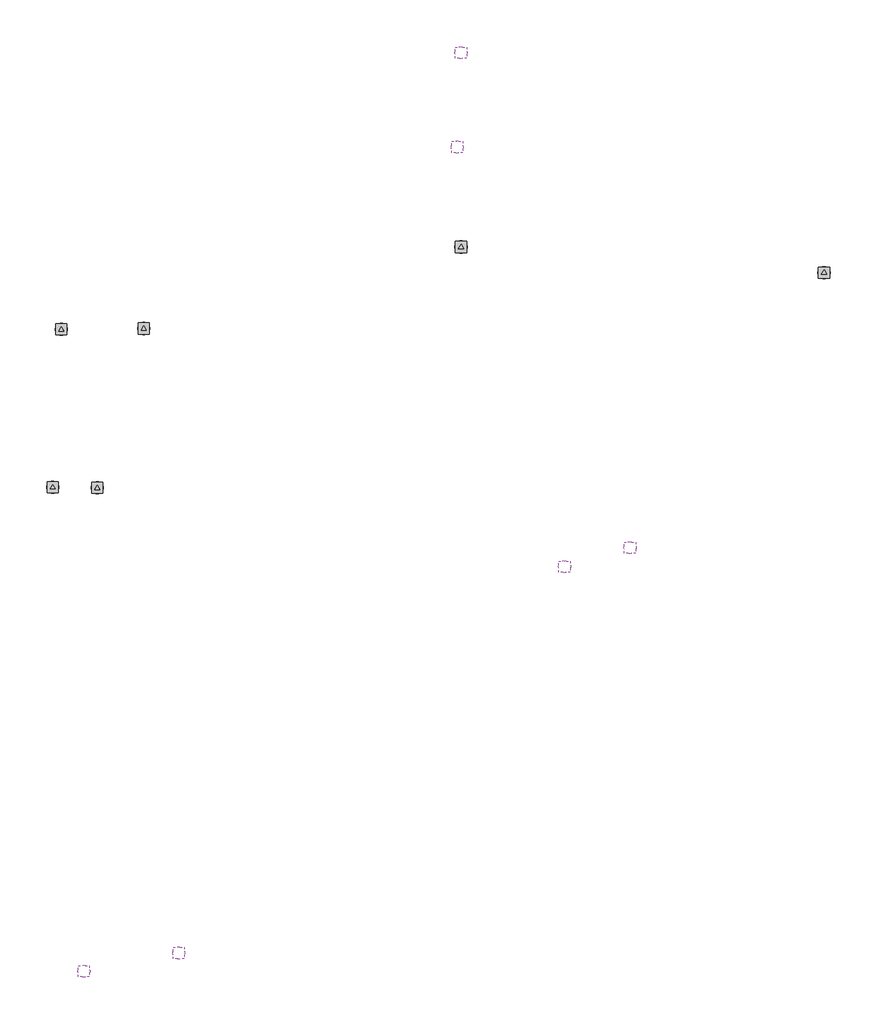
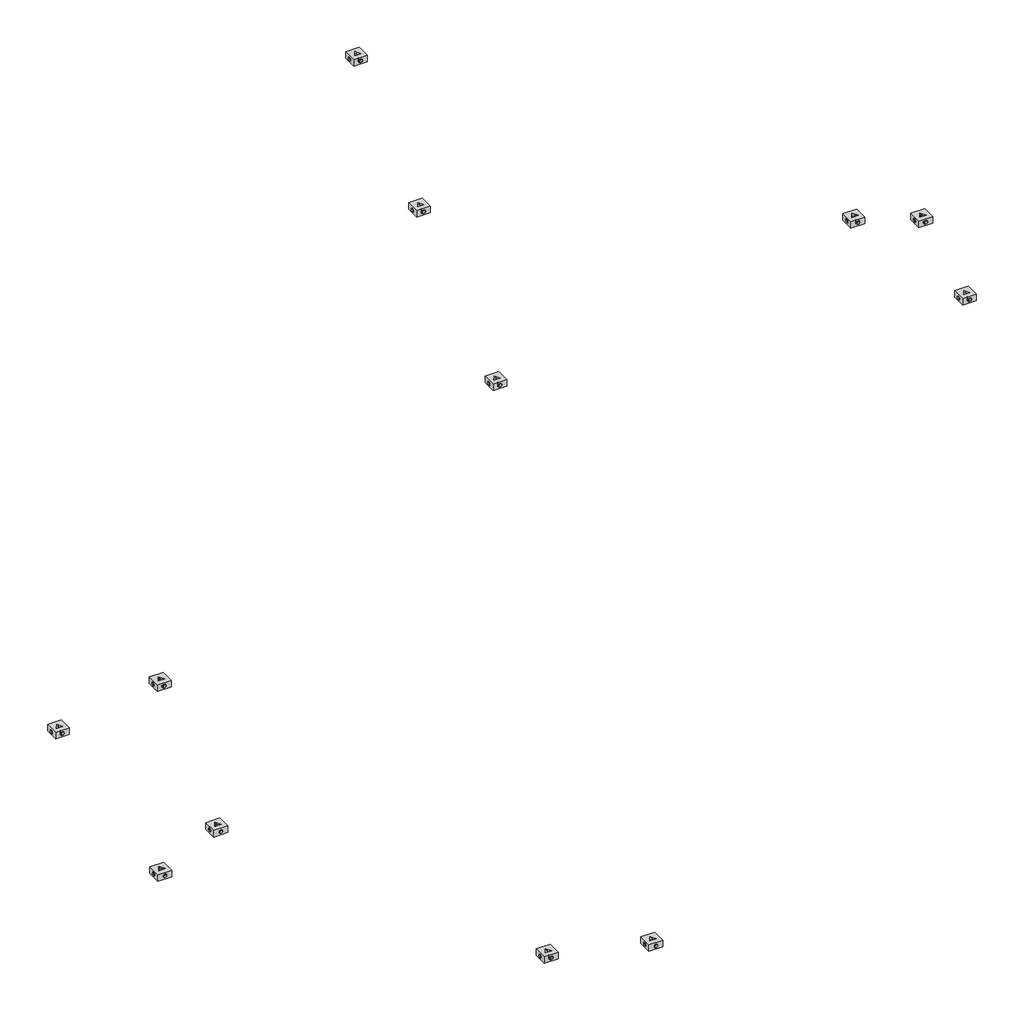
# One storey: 12 proxies.
"""IFC4 building model written with IfcOpenShell, lengths in millimetres."""

from ifc_helpers import new_model, si_unit, origin, place, context, project, spatial, transform, mapped, element, save
from components import electrical_fixtures_ff56aada

model = new_model("IFC4")

# Units and contexts
model_context = context("Model", 3, world=origin())
ifc_project = project(units=[si_unit("LENGTHUNIT", "METRE", prefix="MILLI")], contexts=[model_context])

# Site, building, storey
site = spatial("IfcSite", under=ifc_project)
building = spatial("IfcBuilding", under=site)
storey = spatial("IfcBuildingStorey", under=building, Name="Координационный план", Elevation=0.0)

# Proxies
placement = place(None, origin())
electrical_fixtures_shape = electrical_fixtures_ff56aada(model_context)
element("IfcBuildingElementProxy", 1, Name="mS_EF_НГ_координация_электроприбор : mS_EF_НГ_координация_электроприбор", ObjectType="mS_EF_НГ_координация_электроприбор : mS_EF_НГ_координация_электроприбор", at=placement, inside=storey, context=model_context, shape_type="MappedRepresentation", body=[
    mapped(electrical_fixtures_shape, transform((8497.5612535, 4787.1638017, 809.3412241), x_axis=(1.0, 0.0, 0.0), y_axis=(0.0, 1.0, 0.0), z_axis=(0.0, 0.0, 1.0))),
])
element("IfcBuildingElementProxy", 2, Name="mS_EF_НГ_координация_электроприбор : mS_EF_НГ_координация_электроприбор", ObjectType="mS_EF_НГ_координация_электроприбор : mS_EF_НГ_координация_электроприбор", at=placement, inside=storey, context=model_context, shape_type="MappedRepresentation", body=[
    mapped(electrical_fixtures_shape, transform((6755.0, 2317.6031371, 3509.3457458), x_axis=(1.0, 0.0, 0.0), y_axis=(0.0, 1.0, 0.0), z_axis=(0.0, 0.0, 1.0))),
])
element("IfcBuildingElementProxy", 3, Name="mS_EF_НГ_координация_электроприбор : mS_EF_НГ_координация_электроприбор", ObjectType="mS_EF_НГ_координация_электроприбор : mS_EF_НГ_координация_электроприбор", at=placement, inside=storey, context=model_context, shape_type="MappedRepresentation", body=[
    mapped(electrical_fixtures_shape, transform((2703.5414441, -1322.3968629, 1603.8893709), x_axis=(1.0, 0.0, 0.0), y_axis=(0.0, 1.0, 0.0), z_axis=(0.0, 0.0, 1.0))),
])
element("IfcBuildingElementProxy", 4, Name="mS_EF_НГ_координация_электроприбор : mS_EF_НГ_координация_электроприбор", ObjectType="mS_EF_НГ_координация_электроприбор : mS_EF_НГ_координация_электроприбор", at=placement, inside=storey, context=model_context, shape_type="MappedRepresentation", body=[
    mapped(electrical_fixtures_shape, transform((5237.4586248, 6762.7758511, 2579.0438577), x_axis=(1.0, 0.0, 0.0), y_axis=(0.0, 1.0, 0.0), z_axis=(0.0, 0.0, 1.0))),
])
element("IfcBuildingElementProxy", 5, Name="mS_EF_НГ_координация_электроприбор : mS_EF_НГ_координация_электроприбор", ObjectType="mS_EF_НГ_координация_электроприбор : mS_EF_НГ_координация_электроприбор", at=placement, inside=storey, context=model_context, shape_type="MappedRepresentation", body=[
    mapped(electrical_fixtures_shape, transform((5237.4586248, 5017.9492518, 1157.1904095), x_axis=(1.0, 0.0, 0.0), y_axis=(0.0, 1.0, 0.0), z_axis=(0.0, 0.0, 1.0))),
])
element("IfcBuildingElementProxy", 6, Name="mS_EF_НГ_координация_электроприбор : mS_EF_НГ_координация_электроприбор", ObjectType="mS_EF_НГ_координация_электроприбор : mS_EF_НГ_координация_электроприбор", at=placement, inside=storey, context=model_context, shape_type="MappedRepresentation", body=[
    mapped(electrical_fixtures_shape, transform((5203.3469743, 5915.6403628, 1949.8870691), x_axis=(1.0, 0.0, 0.0), y_axis=(0.0, 1.0, 0.0), z_axis=(0.0, 0.0, 1.0))),
])
element("IfcBuildingElementProxy", 7, Name="mS_EF_НГ_координация_электроприбор : mS_EF_НГ_координация_электроприбор", ObjectType="mS_EF_НГ_координация_электроприбор : mS_EF_НГ_координация_электроприбор", at=placement, inside=storey, context=model_context, shape_type="MappedRepresentation", body=[
    mapped(electrical_fixtures_shape, transform((6166.3500425, 2146.9388418, 3815.9), x_axis=(1.0, 0.0, 0.0), y_axis=(0.0, 1.0, 0.0), z_axis=(0.0, 0.0, 1.0))),
])
element("IfcBuildingElementProxy", 8, Name="mS_EF_НГ_координация_электроприбор : mS_EF_НГ_координация_электроприбор", ObjectType="mS_EF_НГ_координация_электроприбор : mS_EF_НГ_координация_электроприбор", at=placement, inside=storey, context=model_context, shape_type="MappedRepresentation", body=[
    mapped(electrical_fixtures_shape, transform((1851.0414441, -1487.9968629, 1910.443625), x_axis=(1.0, 0.0, 0.0), y_axis=(0.0, 1.0, 0.0), z_axis=(0.0, 0.0, 1.0))),
])
element("IfcBuildingElementProxy", 9, Name="mS_EF_НГ_координация_электроприбор : mS_EF_НГ_координация_электроприбор", ObjectType="mS_EF_НГ_координация_электроприбор : mS_EF_НГ_координация_электроприбор", at=placement, inside=storey, context=model_context, shape_type="MappedRepresentation", body=[
    mapped(electrical_fixtures_shape, transform((1569.7953351, 2859.8927491, 0.0), x_axis=(1.0, 0.0, 0.0), y_axis=(0.0, 1.0, 0.0), z_axis=(0.0, 0.0, 1.0))),
])
element("IfcBuildingElementProxy", 10, Name="mS_EF_НГ_координация_электроприбор : mS_EF_НГ_координация_электроприбор", ObjectType="mS_EF_НГ_координация_электроприбор : mS_EF_НГ_координация_электроприбор", at=placement, inside=storey, context=model_context, shape_type="MappedRepresentation", body=[
    mapped(electrical_fixtures_shape, transform((2388.2522176, 4285.3111888, 300.135756), x_axis=(1.0, 0.0, 0.0), y_axis=(0.0, 1.0, 0.0), z_axis=(0.0, 0.0, 1.0))),
])
element("IfcBuildingElementProxy", 11, Name="mS_EF_НГ_координация_электроприбор : mS_EF_НГ_координация_электроприбор", ObjectType="mS_EF_НГ_координация_электроприбор : mS_EF_НГ_координация_электроприбор", at=placement, inside=storey, context=model_context, shape_type="MappedRepresentation", body=[
    mapped(electrical_fixtures_shape, transform((1648.5909053, 4277.8111888, 200.0), x_axis=(1.0, 0.0, 0.0), y_axis=(0.0, 1.0, 0.0), z_axis=(0.0, 0.0, 1.0))),
])
element("IfcBuildingElementProxy", 12, Name="mS_EF_НГ_координация_электроприбор : mS_EF_НГ_координация_электроприбор", ObjectType="mS_EF_НГ_координация_электроприбор : mS_EF_НГ_координация_электроприбор", at=placement, inside=storey, context=model_context, shape_type="MappedRepresentation", body=[
    mapped(electrical_fixtures_shape, transform((1971.4620017, 2854.7475027, 200.0), x_axis=(1.0, 0.0, 0.0), y_axis=(0.0, 1.0, 0.0), z_axis=(0.0, 0.0, 1.0))),
])

save(model, "model.ifc")
